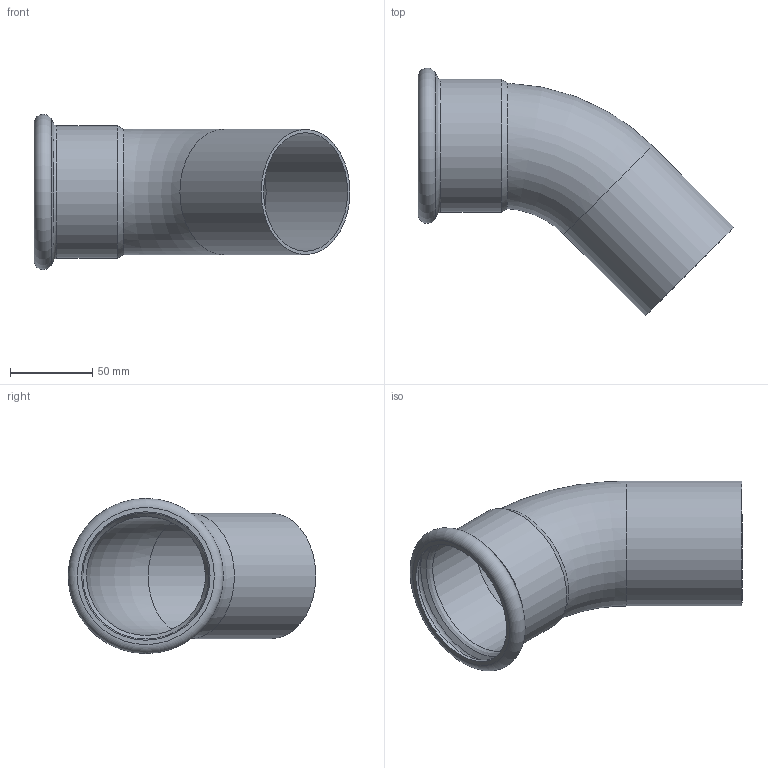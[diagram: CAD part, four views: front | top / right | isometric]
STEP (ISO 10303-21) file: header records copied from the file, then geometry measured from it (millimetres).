
FILE_DESCRIPTION((''),'2;1');
FILE_NAME('G:\Technics\CAD\Bauteile\076\6904076(1).stp','2008-03-10T11:48:35',('herberg'),(''),'Autodesk Inventor 2008','Autodesk Inventor 2008','');
FILE_SCHEMA(('AUTOMOTIVE_DESIGN { 1 0 10303 214 1 1 1 1 }'));
Length unit declared in the file: millimetre
Products named in the file (1): 6904076(1)
Bounding box: 191.77 x 150.42 x 94.3 mm (x, y, z)
Volume: 96066.2 mm3; surface area: 97028.2 mm2
Topology: 1 solids, 1 shells, 18 faces, 34 edges, 19 vertices
Faces by surface type: cylinder 5, cone 4, torus 4, plane 3, bspline 2
Full cylindrical faces by diameter (mm): 72.1 x1, 76.1 x1, 76.6 x1, 78 x1, 80.6 x1
Entity records: 542 total; most frequent: CARTESIAN_POINT 217, DIRECTION 66, ORIENTED_EDGE 36, EDGE_LOOP 36, AXIS2_PLACEMENT_3D 33, VERTEX_POINT 18, EDGE_CURVE 18, FACE_OUTER_BOUND 18
